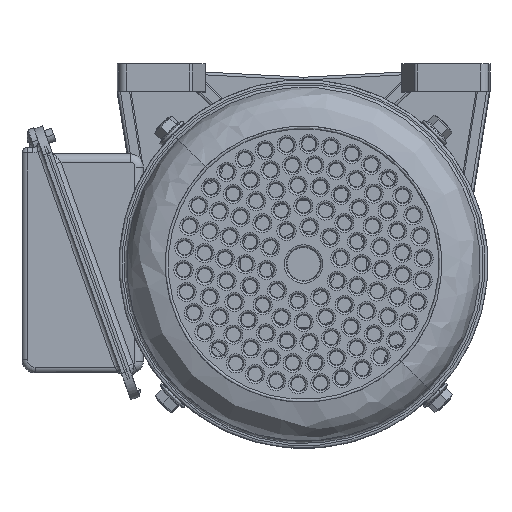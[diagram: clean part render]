
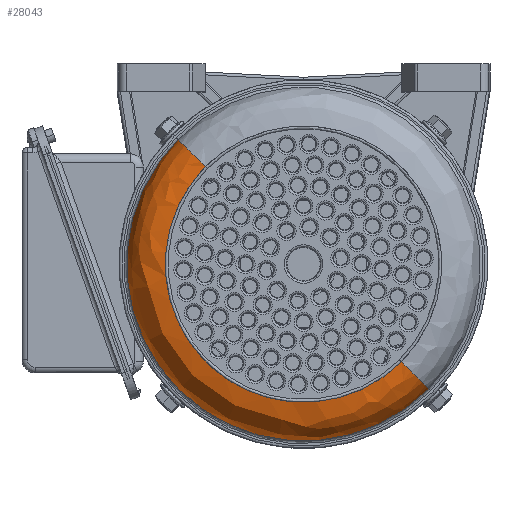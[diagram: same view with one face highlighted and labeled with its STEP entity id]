
A CAD part, front view. The second image highlights one B-rep face of the part: STEP entity #28043.
In plain terms, the highlighted free-form (B-spline) face has degree [3, 3] with [4, 4] control points.
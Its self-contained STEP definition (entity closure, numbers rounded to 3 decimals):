
#12880 = DIRECTION ( 'NONE',  ( 1., 0., 0. ) ) ;
#12881 = DIRECTION ( 'NONE',  ( 0., 1., 0. ) ) ;
#12882 = CARTESIAN_POINT ( 'NONE',  ( 50., 0., 29. ) ) ;
#12883 = AXIS2_PLACEMENT_3D ( 'NONE', #12882, #12881, #12880 ) ;
#12884 = CIRCLE ( 'NONE', #12883, 14. ) ;
#12891 = CARTESIAN_POINT ( 'NONE',  ( 64., 0., 29. ) ) ;
#12892 = DIRECTION ( 'NONE',  ( 1., 0., 0. ) ) ;
#12893 = DIRECTION ( 'NONE',  ( 0., 0., -1. ) ) ;
#12894 = CARTESIAN_POINT ( 'NONE',  ( 0., 0., 29. ) ) ;
#12895 = AXIS2_PLACEMENT_3D ( 'NONE', #12894, #12893, #12892 ) ;
#12896 = CIRCLE ( 'NONE', #12895, 64. ) ;
#12897 = CARTESIAN_POINT ( 'NONE',  ( -64., 0., 29. ) ) ;
#12898 = DIRECTION ( 'NONE',  ( -1., 0., 0. ) ) ;
#12899 = DIRECTION ( 'NONE',  ( 0., -1., 0. ) ) ;
#12900 = CARTESIAN_POINT ( 'NONE',  ( -50., 0., 29. ) ) ;
#12901 = AXIS2_PLACEMENT_3D ( 'NONE', #12900, #12899, #12898 ) ;
#12902 = CIRCLE ( 'NONE', #12901, 14. ) ;
#12922 = CARTESIAN_POINT ( 'NONE',  ( 0., 0., 43. ) ) ;
#12923 = AXIS2_PLACEMENT_3D ( 'NONE', #12922, #12953, #12952 ) ;
#12924 = CIRCLE ( 'NONE', #12923, 50. ) ;
#12925 =( BOUNDED_SURFACE ( )  B_SPLINE_SURFACE ( 3, 3, ( 
 ( #12969, #12968, #12967, #12966 ),
 ( #12965, #12964, #12963, #12962 ),
 ( #12961, #12960, #12959, #12958 ),
 ( #12957, #12956, #12955, #12954 ) ),
 .UNSPECIFIED., .F., .F., .F. ) 
 B_SPLINE_SURFACE_WITH_KNOTS ( ( 4, 4 ),
 ( 4, 4 ),
 ( 0., 1. ),
 ( 0., 1. ),
 .UNSPECIFIED. ) 
 GEOMETRIC_REPRESENTATION_ITEM ( )  RATIONAL_B_SPLINE_SURFACE ( (
 ( 1., 0.333, 0.333, 1.),
 ( 0.805, 0.268, 0.268, 0.805),
 ( 0.805, 0.268, 0.268, 0.805),
 ( 1., 0.333, 0.333, 1.) ) ) 
 REPRESENTATION_ITEM ( '' )  SURFACE ( )  );
#12927 = FACE_OUTER_BOUND ( 'NONE', #28049, .T. ) ;
#12950 = CARTESIAN_POINT ( 'NONE',  ( 50., 0., 43. ) ) ;
#12951 = CARTESIAN_POINT ( 'NONE',  ( -50., 0., 43. ) ) ;
#12952 = DIRECTION ( 'NONE',  ( 1., 0., 0. ) ) ;
#12953 = DIRECTION ( 'NONE',  ( 0., 0., 1. ) ) ;
#12954 = CARTESIAN_POINT ( 'NONE',  ( 64., 0., 29. ) ) ;
#12955 = CARTESIAN_POINT ( 'NONE',  ( 64., -128., 29. ) ) ;
#12956 = CARTESIAN_POINT ( 'NONE',  ( -64., -128., 29. ) ) ;
#12957 = CARTESIAN_POINT ( 'NONE',  ( -64., 0., 29. ) ) ;
#12958 = CARTESIAN_POINT ( 'NONE',  ( 64., 0., 37.201 ) ) ;
#12959 = CARTESIAN_POINT ( 'NONE',  ( 64., -128., 37.201 ) ) ;
#12960 = CARTESIAN_POINT ( 'NONE',  ( -64., -128., 37.201 ) ) ;
#12961 = CARTESIAN_POINT ( 'NONE',  ( -64., 0., 37.201 ) ) ;
#12962 = CARTESIAN_POINT ( 'NONE',  ( 58.201, 0., 43. ) ) ;
#12963 = CARTESIAN_POINT ( 'NONE',  ( 58.201, -116.402, 43. ) ) ;
#12964 = CARTESIAN_POINT ( 'NONE',  ( -58.201, -116.402, 43. ) ) ;
#12965 = CARTESIAN_POINT ( 'NONE',  ( -58.201, 0., 43. ) ) ;
#12966 = CARTESIAN_POINT ( 'NONE',  ( 50., 0., 43. ) ) ;
#12967 = CARTESIAN_POINT ( 'NONE',  ( 50., -100., 43. ) ) ;
#12968 = CARTESIAN_POINT ( 'NONE',  ( -50., -100., 43. ) ) ;
#12969 = CARTESIAN_POINT ( 'NONE',  ( -50., 0., 43. ) ) ;
#27992 = ORIENTED_EDGE ( 'NONE', *, *, #27993, .T. ) ;
#27993 = EDGE_CURVE ( 'NONE', #28054, #27995, #12902, .T. ) ;
#27995 = VERTEX_POINT ( 'NONE', #12897 ) ;
#27996 = ORIENTED_EDGE ( 'NONE', *, *, #27997, .F. ) ;
#27997 = EDGE_CURVE ( 'NONE', #27998, #27995, #12896, .T. ) ;
#27998 = VERTEX_POINT ( 'NONE', #12891 ) ;
#28002 = ORIENTED_EDGE ( 'NONE', *, *, #28004, .F. ) ;
#28004 = EDGE_CURVE ( 'NONE', #28055, #27998, #12884, .T. ) ;
#28043 = ADVANCED_FACE ( 'NONE', ( #12927 ), #12925, .T. ) ;
#28049 = EDGE_LOOP ( 'NONE', ( #28051, #27992, #27996, #28002 ) ) ;
#28051 = ORIENTED_EDGE ( 'NONE', *, *, #28053, .F. ) ;
#28053 = EDGE_CURVE ( 'NONE', #28054, #28055, #12924, .T. ) ;
#28054 = VERTEX_POINT ( 'NONE', #12951 ) ;
#28055 = VERTEX_POINT ( 'NONE', #12950 ) ;
